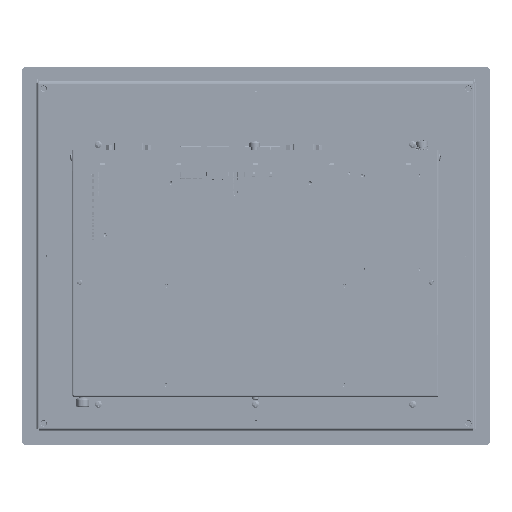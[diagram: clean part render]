
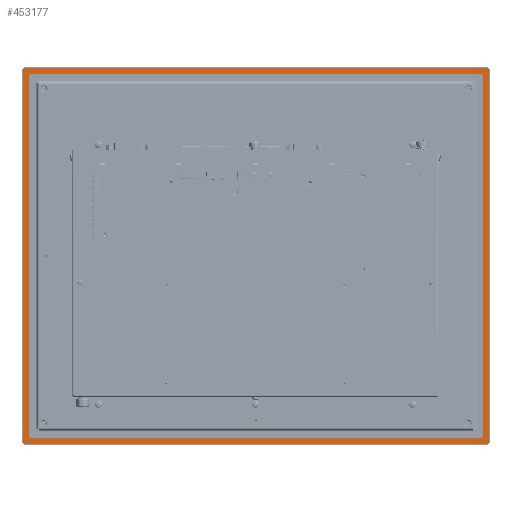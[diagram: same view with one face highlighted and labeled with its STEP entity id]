
A CAD part, front view. The second image highlights one B-rep face of the part: STEP entity #453177.
In plain terms, the highlighted planar face has unit normal (0, -1, 0).
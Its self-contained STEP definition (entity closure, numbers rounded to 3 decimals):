
#9213 = DIRECTION ( 'NONE',  ( 0., 0., -1. ) ) ;
#9642 = ORIENTED_EDGE ( 'NONE', *, *, #542666, .F. ) ;
#16340 = DIRECTION ( 'NONE',  ( -1., 0., 0. ) ) ;
#16721 = DIRECTION ( 'NONE',  ( 1., 0., 0. ) ) ;
#18820 = VERTEX_POINT ( 'NONE', #601564 ) ;
#18904 = DIRECTION ( 'NONE',  ( 0., 0., -1. ) ) ;
#21853 = CARTESIAN_POINT ( 'NONE',  ( -189., 0.5, 160.5 ) ) ;
#31644 = ORIENTED_EDGE ( 'NONE', *, *, #525237, .F. ) ;
#33493 = CARTESIAN_POINT ( 'NONE',  ( 188., 0.5, 161.5 ) ) ;
#37550 = EDGE_CURVE ( 'NONE', #486664, #245919, #123130, .T. ) ;
#39194 = DIRECTION ( 'NONE',  ( 0., -1., 0. ) ) ;
#40200 = VERTEX_POINT ( 'NONE', #98982 ) ;
#42101 = CARTESIAN_POINT ( 'NONE',  ( 192., 0.5, -146.5 ) ) ;
#45226 = VERTEX_POINT ( 'NONE', #430446 ) ;
#54376 = CARTESIAN_POINT ( 'NONE',  ( 194., 0.5, 164.5 ) ) ;
#61297 = DIRECTION ( 'NONE',  ( 0., -1., 0. ) ) ;
#68212 = VERTEX_POINT ( 'NONE', #506699 ) ;
#75094 = EDGE_CURVE ( 'NONE', #677764, #201663, #320857, .T. ) ;
#85831 = ORIENTED_EDGE ( 'NONE', *, *, #415456, .F. ) ;
#86772 = CARTESIAN_POINT ( 'NONE',  ( -188., 0.5, 161.5 ) ) ;
#95537 = CIRCLE ( 'NONE', #172316, 2. ) ;
#98982 = CARTESIAN_POINT ( 'NONE',  ( 188., 0.5, -141.5 ) ) ;
#117627 = DIRECTION ( 'NONE',  ( 1., 0., 0. ) ) ;
#123130 = LINE ( 'NONE', #190500, #245384 ) ;
#129509 = CARTESIAN_POINT ( 'NONE',  ( -192., 0.5, 166.5 ) ) ;
#138255 = VERTEX_POINT ( 'NONE', #463461 ) ;
#141634 = CARTESIAN_POINT ( 'NONE',  ( -188., 0.5, 160.5 ) ) ;
#147847 = AXIS2_PLACEMENT_3D ( 'NONE', #556321, #256072, #16340 ) ;
#148574 = EDGE_CURVE ( 'NONE', #725503, #720714, #545418, .T. ) ;
#149904 = CARTESIAN_POINT ( 'NONE',  ( -192., 0.5, 166.5 ) ) ;
#170234 = DIRECTION ( 'NONE',  ( 0., 1., 0. ) ) ;
#172316 = AXIS2_PLACEMENT_3D ( 'NONE', #340181, #511547, #398191 ) ;
#172489 = CARTESIAN_POINT ( 'NONE',  ( -189., 0.5, -140.5 ) ) ;
#175456 = CIRCLE ( 'NONE', #697971, 2. ) ;
#188328 = CARTESIAN_POINT ( 'NONE',  ( -192., 0.5, -144.5 ) ) ;
#188409 = DIRECTION ( 'NONE',  ( -1., 0., 0. ) ) ;
#190500 = CARTESIAN_POINT ( 'NONE',  ( -194., 0.5, -144.5 ) ) ;
#192958 = ORIENTED_EDGE ( 'NONE', *, *, #222445, .F. ) ;
#201663 = VERTEX_POINT ( 'NONE', #719080 ) ;
#222445 = EDGE_CURVE ( 'NONE', #45226, #439788, #738621, .T. ) ;
#226271 = CARTESIAN_POINT ( 'NONE',  ( -192., 0.5, 164.5 ) ) ;
#231904 = EDGE_CURVE ( 'NONE', #245919, #612557, #661311, .T. ) ;
#245384 = VECTOR ( 'NONE', #359237, 1000. ) ;
#245919 = VERTEX_POINT ( 'NONE', #499676 ) ;
#253083 = DIRECTION ( 'NONE',  ( 1., 0., 0. ) ) ;
#256072 = DIRECTION ( 'NONE',  ( 0., -1., 0. ) ) ;
#265136 = DIRECTION ( 'NONE',  ( 0., -1., 0. ) ) ;
#278406 = EDGE_CURVE ( 'NONE', #759936, #713473, #95537, .T. ) ;
#281664 = CARTESIAN_POINT ( 'NONE',  ( 192., 0.5, 166.5 ) ) ;
#292423 = VERTEX_POINT ( 'NONE', #711985 ) ;
#302481 = EDGE_CURVE ( 'NONE', #18820, #292423, #512449, .T. ) ;
#306487 = ORIENTED_EDGE ( 'NONE', *, *, #148574, .F. ) ;
#312812 = ORIENTED_EDGE ( 'NONE', *, *, #415424, .F. ) ;
#320857 = LINE ( 'NONE', #719613, #443364 ) ;
#327071 = ORIENTED_EDGE ( 'NONE', *, *, #486832, .F. ) ;
#331801 = EDGE_CURVE ( 'NONE', #138255, #40200, #671457, .T. ) ;
#340181 = CARTESIAN_POINT ( 'NONE',  ( 192., 0.5, 164.5 ) ) ;
#340567 = EDGE_LOOP ( 'NONE', ( #544417, #715511, #558555, #432423, #385125, #85831, #745362, #312812 ) ) ;
#341479 = FACE_OUTER_BOUND ( 'NONE', #340567, .T. ) ;
#352957 = VECTOR ( 'NONE', #18904, 1000. ) ;
#359237 = DIRECTION ( 'NONE',  ( 0., 0., 1. ) ) ;
#367452 = DIRECTION ( 'NONE',  ( 0., 1., 0. ) ) ;
#385125 = ORIENTED_EDGE ( 'NONE', *, *, #37550, .F. ) ;
#386535 = DIRECTION ( 'NONE',  ( 1., 0., 0. ) ) ;
#398191 = DIRECTION ( 'NONE',  ( 0., 0., 1. ) ) ;
#400715 = EDGE_CURVE ( 'NONE', #612557, #759936, #644493, .T. ) ;
#405518 = CARTESIAN_POINT ( 'NONE',  ( -189., 0.5, 160.5 ) ) ;
#408860 = AXIS2_PLACEMENT_3D ( 'NONE', #226271, #526500, #650075 ) ;
#413659 = DIRECTION ( 'NONE',  ( 0., 0., 1. ) ) ;
#415424 = EDGE_CURVE ( 'NONE', #68212, #677764, #175456, .T. ) ;
#415456 = EDGE_CURVE ( 'NONE', #201663, #486664, #561694, .T. ) ;
#416953 = FACE_BOUND ( 'NONE', #720865, .T. ) ;
#430446 = CARTESIAN_POINT ( 'NONE',  ( 188., 0.5, 161.5 ) ) ;
#432423 = ORIENTED_EDGE ( 'NONE', *, *, #231904, .F. ) ;
#439788 = VERTEX_POINT ( 'NONE', #86772 ) ;
#443364 = VECTOR ( 'NONE', #603701, 1000. ) ;
#446834 = AXIS2_PLACEMENT_3D ( 'NONE', #488683, #549196, #188409 ) ;
#451068 = VECTOR ( 'NONE', #503812, 1000. ) ;
#453177 = ADVANCED_FACE ( 'NONE', ( #416953, #341479 ), #495720, .T. ) ;
#456860 = EDGE_CURVE ( 'NONE', #292423, #45226, #490445, .T. ) ;
#460587 = DIRECTION ( 'NONE',  ( 0., 0., -1. ) ) ;
#461669 = CARTESIAN_POINT ( 'NONE',  ( -194., 0.5, -144.5 ) ) ;
#463461 = CARTESIAN_POINT ( 'NONE',  ( -188., 0.5, -141.5 ) ) ;
#471909 = AXIS2_PLACEMENT_3D ( 'NONE', #501311, #61297, #16721 ) ;
#475432 = LINE ( 'NONE', #743088, #352957 ) ;
#477547 = AXIS2_PLACEMENT_3D ( 'NONE', #141634, #265136, #499734 ) ;
#484433 = VECTOR ( 'NONE', #253083, 1000. ) ;
#486664 = VERTEX_POINT ( 'NONE', #461669 ) ;
#486832 = EDGE_CURVE ( 'NONE', #439788, #725503, #572872, .T. ) ;
#488683 = CARTESIAN_POINT ( 'NONE',  ( -188., 0.5, -140.5 ) ) ;
#490445 = CIRCLE ( 'NONE', #471909, 1. ) ;
#495720 = PLANE ( 'NONE',  #147847 ) ;
#499676 = CARTESIAN_POINT ( 'NONE',  ( -194., 0.5, 164.5 ) ) ;
#499734 = DIRECTION ( 'NONE',  ( 0., 0., 1. ) ) ;
#501311 = CARTESIAN_POINT ( 'NONE',  ( 188., 0.5, 160.5 ) ) ;
#503812 = DIRECTION ( 'NONE',  ( 0., 0., -1. ) ) ;
#506699 = CARTESIAN_POINT ( 'NONE',  ( 194., 0.5, -144.5 ) ) ;
#511547 = DIRECTION ( 'NONE',  ( 0., 1., 0. ) ) ;
#512449 = LINE ( 'NONE', #527016, #710287 ) ;
#515279 = EDGE_CURVE ( 'NONE', #713473, #68212, #475432, .T. ) ;
#523729 = CARTESIAN_POINT ( 'NONE',  ( 188., 0.5, -140.5 ) ) ;
#525237 = EDGE_CURVE ( 'NONE', #40200, #18820, #570596, .T. ) ;
#526500 = DIRECTION ( 'NONE',  ( 0., 1., 0. ) ) ;
#527016 = CARTESIAN_POINT ( 'NONE',  ( 189., 0.5, -140.5 ) ) ;
#530945 = CARTESIAN_POINT ( 'NONE',  ( 192., 0.5, -144.5 ) ) ;
#542666 = EDGE_CURVE ( 'NONE', #720714, #138255, #710033, .T. ) ;
#544417 = ORIENTED_EDGE ( 'NONE', *, *, #515279, .F. ) ;
#545418 = LINE ( 'NONE', #21853, #451068 ) ;
#549196 = DIRECTION ( 'NONE',  ( 0., -1., 0. ) ) ;
#556321 = CARTESIAN_POINT ( 'NONE',  ( 0., 0.5, 0. ) ) ;
#558555 = ORIENTED_EDGE ( 'NONE', *, *, #400715, .F. ) ;
#561694 = CIRCLE ( 'NONE', #738445, 2. ) ;
#570596 = CIRCLE ( 'NONE', #754757, 1. ) ;
#572872 = CIRCLE ( 'NONE', #477547, 1. ) ;
#597614 = ORIENTED_EDGE ( 'NONE', *, *, #331801, .F. ) ;
#601564 = CARTESIAN_POINT ( 'NONE',  ( 189., 0.5, -140.5 ) ) ;
#603701 = DIRECTION ( 'NONE',  ( -1., 0., 0. ) ) ;
#612557 = VERTEX_POINT ( 'NONE', #149904 ) ;
#628217 = ORIENTED_EDGE ( 'NONE', *, *, #456860, .F. ) ;
#644493 = LINE ( 'NONE', #129509, #484433 ) ;
#646868 = DIRECTION ( 'NONE',  ( -1., 0., 0. ) ) ;
#650075 = DIRECTION ( 'NONE',  ( -1., 0., 0. ) ) ;
#653791 = VECTOR ( 'NONE', #646868, 1000. ) ;
#661311 = CIRCLE ( 'NONE', #408860, 2. ) ;
#661651 = VECTOR ( 'NONE', #386535, 1000. ) ;
#671457 = LINE ( 'NONE', #697074, #661651 ) ;
#677764 = VERTEX_POINT ( 'NONE', #42101 ) ;
#697074 = CARTESIAN_POINT ( 'NONE',  ( -188., 0.5, -141.5 ) ) ;
#697971 = AXIS2_PLACEMENT_3D ( 'NONE', #530945, #170234, #117627 ) ;
#710033 = CIRCLE ( 'NONE', #446834, 1. ) ;
#710287 = VECTOR ( 'NONE', #413659, 1000. ) ;
#711985 = CARTESIAN_POINT ( 'NONE',  ( 189., 0.5, 160.5 ) ) ;
#713473 = VERTEX_POINT ( 'NONE', #54376 ) ;
#715511 = ORIENTED_EDGE ( 'NONE', *, *, #278406, .F. ) ;
#719080 = CARTESIAN_POINT ( 'NONE',  ( -192., 0.5, -146.5 ) ) ;
#719613 = CARTESIAN_POINT ( 'NONE',  ( 192., 0.5, -146.5 ) ) ;
#720714 = VERTEX_POINT ( 'NONE', #172489 ) ;
#720865 = EDGE_LOOP ( 'NONE', ( #597614, #9642, #306487, #327071, #192958, #628217, #725909, #31644 ) ) ;
#725503 = VERTEX_POINT ( 'NONE', #405518 ) ;
#725909 = ORIENTED_EDGE ( 'NONE', *, *, #302481, .F. ) ;
#738445 = AXIS2_PLACEMENT_3D ( 'NONE', #188328, #367452, #9213 ) ;
#738621 = LINE ( 'NONE', #33493, #653791 ) ;
#743088 = CARTESIAN_POINT ( 'NONE',  ( 194., 0.5, 164.5 ) ) ;
#745362 = ORIENTED_EDGE ( 'NONE', *, *, #75094, .F. ) ;
#754757 = AXIS2_PLACEMENT_3D ( 'NONE', #523729, #39194, #460587 ) ;
#759936 = VERTEX_POINT ( 'NONE', #281664 ) ;
